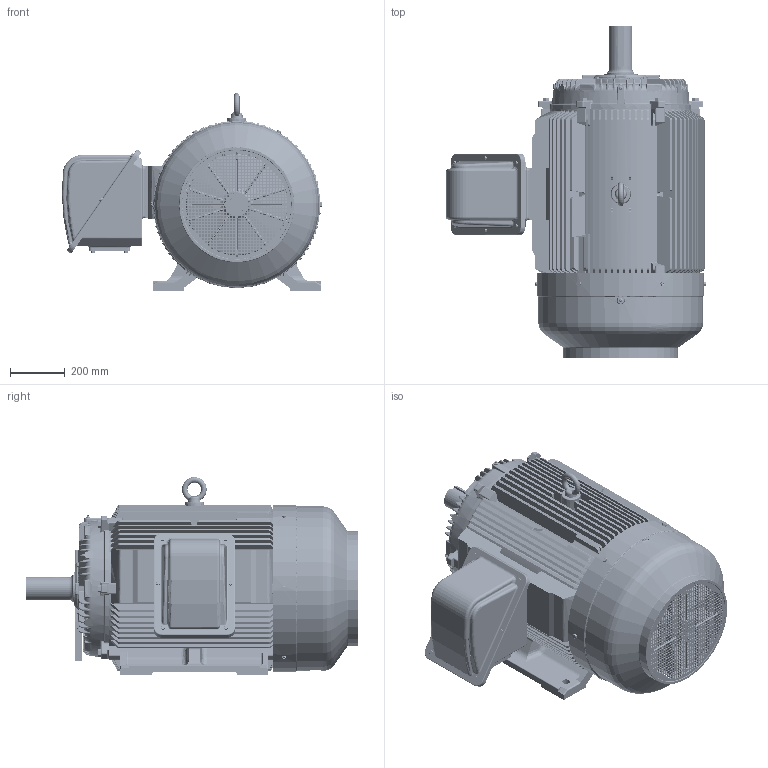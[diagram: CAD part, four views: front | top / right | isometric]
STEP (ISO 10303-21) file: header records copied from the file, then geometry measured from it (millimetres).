
FILE_DESCRIPTION(('CATIA V5 STEP Exchange'),'2;1');
FILE_NAME('C:\Documents and Settings\matthen\桌面\315MC-H-NEW HIGH FIN.stp','2011-06-17T09:06:04+00:00',('none'),('none'),'CATIA Version 5 Release 19 SP 2 (IN-10)','CATIA V5 STEP AP203','none');
FILE_SCHEMA(('CONFIG_CONTROL_DESIGN'));
Length unit declared in the file: millimetre
Products named in the file (2): 315MC-NEW HIGH FIN; 3A6001310008
Assembly tree (65 placements, depth 3):
  315MC-NEW HIGH FIN
    #58
    #81
    #2407
    #37286
    #119270
    #201970
    #210291
    #211382
    #219677
    #220768
    #223533
    #225293
    #244164
    #467929  x2
    #468705
    #469365
    3A6001310008
      #475342
      #486110
      #493839
      #494406  x4
      #494980  x4
      #495554  x6
    #496171  x12
    #496715  x8
    #497349  x4
    #497954  x6
Bounding box: 950.36 x 1212 x 722.5 mm (x, y, z)
Volume: 63475659.1 mm3; surface area: 12015215.2 mm2
Topology: 63 solids, 65 shells, 13038 faces, 35921 edges, 22798 vertices
Faces by surface type: cylinder 4922, plane 4806, bspline 1540, torus 1070, cone 568, sphere 112, revolution 20
Entity records: 499279 total; most frequent: CARTESIAN_POINT 206548, ORIENTED_EDGE 67722, DIRECTION 46269, EDGE_CURVE 33861, VERTEX_POINT 21739, AXIS2_PLACEMENT_3D 20173, VECTOR 16800, LINE 16800
